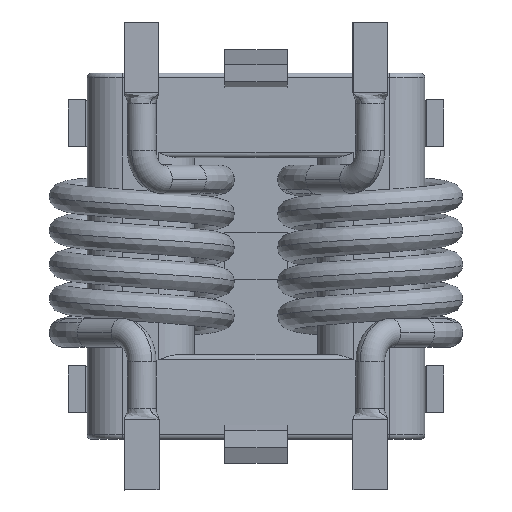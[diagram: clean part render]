
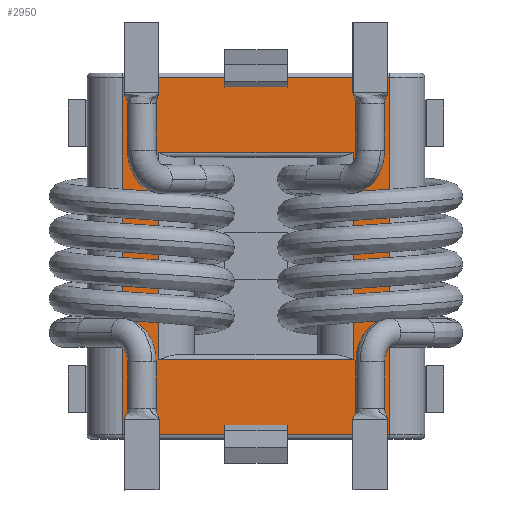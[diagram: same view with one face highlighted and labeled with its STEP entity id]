
A CAD part, top view. The second image highlights one B-rep face of the part: STEP entity #2950.
In plain terms, the highlighted planar face has unit normal (0, 0, 1).
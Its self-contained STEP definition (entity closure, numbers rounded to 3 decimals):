
#4 = EDGE_CURVE ( 'NONE', #8555, #11320, #2230, .T. ) ;
#168 = VECTOR ( 'NONE', #2508, 1000. ) ;
#873 = VERTEX_POINT ( 'NONE', #5338 ) ;
#1030 = CARTESIAN_POINT ( 'NONE',  ( 21.226, 8.313, 3.45 ) ) ;
#1208 = CARTESIAN_POINT ( 'NONE',  ( 15.026, -4.887, 3.45 ) ) ;
#1559 = EDGE_CURVE ( 'NONE', #11576, #3186, #13070, .T. ) ;
#2230 = LINE ( 'NONE', #11026, #2727 ) ;
#2508 = DIRECTION ( 'NONE',  ( -1., 0., 0. ) ) ;
#2661 = VECTOR ( 'NONE', #4135, 1000. ) ;
#2727 = VECTOR ( 'NONE', #8040, 1000. ) ;
#2950 = ADVANCED_FACE ( 'NONE', ( #3803, #9127 ), #10917, .T. ) ;
#3079 = LINE ( 'NONE', #6645, #5367 ) ;
#3186 = VERTEX_POINT ( 'NONE', #7169 ) ;
#3277 = EDGE_CURVE ( 'NONE', #10078, #873, #5741, .T. ) ;
#3479 = DIRECTION ( 'NONE',  ( 0., -1., 0. ) ) ;
#3767 = CARTESIAN_POINT ( 'NONE',  ( 23.576, -9.687, 3.45 ) ) ;
#3803 = FACE_OUTER_BOUND ( 'NONE', #9327, .T. ) ;
#4100 = ORIENTED_EDGE ( 'NONE', *, *, #10108, .T. ) ;
#4135 = DIRECTION ( 'NONE',  ( 0., 1., 0. ) ) ;
#4184 = LINE ( 'NONE', #10744, #7922 ) ;
#4843 = ORIENTED_EDGE ( 'NONE', *, *, #1559, .T. ) ;
#5337 = AXIS2_PLACEMENT_3D ( 'NONE', #5600, #12789, #10964 ) ;
#5338 = CARTESIAN_POINT ( 'NONE',  ( 8.826, 8.313, 3.45 ) ) ;
#5367 = VECTOR ( 'NONE', #8791, 1000. ) ;
#5391 = DIRECTION ( 'NONE',  ( -1., 0., 0. ) ) ;
#5600 = CARTESIAN_POINT ( 'NONE',  ( 15.026, 1.713, 3.45 ) ) ;
#5741 = LINE ( 'NONE', #11255, #2661 ) ;
#5893 = VECTOR ( 'NONE', #7563, 1000. ) ;
#6078 = CARTESIAN_POINT ( 'NONE',  ( 23.576, 13.113, 3.45 ) ) ;
#6307 = CARTESIAN_POINT ( 'NONE',  ( 8.826, -4.887, 3.45 ) ) ;
#6324 = CARTESIAN_POINT ( 'NONE',  ( 6.476, -9.687, 3.45 ) ) ;
#6455 = ORIENTED_EDGE ( 'NONE', *, *, #3277, .T. ) ;
#6526 = LINE ( 'NONE', #9588, #5893 ) ;
#6645 = CARTESIAN_POINT ( 'NONE',  ( 15.026, 8.313, 3.45 ) ) ;
#6832 = VECTOR ( 'NONE', #5391, 1000. ) ;
#7169 = CARTESIAN_POINT ( 'NONE',  ( 6.476, 13.113, 3.45 ) ) ;
#7268 = CARTESIAN_POINT ( 'NONE',  ( 21.226, -4.887, 3.45 ) ) ;
#7343 = VECTOR ( 'NONE', #10897, 1000. ) ;
#7563 = DIRECTION ( 'NONE',  ( 0., 1., 0. ) ) ;
#7922 = VECTOR ( 'NONE', #3479, 1000. ) ;
#8040 = DIRECTION ( 'NONE',  ( 0., -1., 0. ) ) ;
#8106 = LINE ( 'NONE', #1208, #6832 ) ;
#8555 = VERTEX_POINT ( 'NONE', #1030 ) ;
#8570 = EDGE_LOOP ( 'NONE', ( #8891, #4100, #6455, #10125 ) ) ;
#8661 = VERTEX_POINT ( 'NONE', #10264 ) ;
#8791 = DIRECTION ( 'NONE',  ( 1., 0., 0. ) ) ;
#8886 = EDGE_CURVE ( 'NONE', #12250, #8661, #9098, .T. ) ;
#8891 = ORIENTED_EDGE ( 'NONE', *, *, #4, .T. ) ;
#9098 = LINE ( 'NONE', #3767, #7343 ) ;
#9127 = FACE_BOUND ( 'NONE', #8570, .T. ) ;
#9327 = EDGE_LOOP ( 'NONE', ( #12548, #4843, #12083, #9683 ) ) ;
#9588 = CARTESIAN_POINT ( 'NONE',  ( 23.576, 13.413, 3.45 ) ) ;
#9683 = ORIENTED_EDGE ( 'NONE', *, *, #8886, .T. ) ;
#9888 = EDGE_CURVE ( 'NONE', #873, #8555, #3079, .T. ) ;
#10078 = VERTEX_POINT ( 'NONE', #6307 ) ;
#10108 = EDGE_CURVE ( 'NONE', #11320, #10078, #8106, .T. ) ;
#10125 = ORIENTED_EDGE ( 'NONE', *, *, #9888, .T. ) ;
#10264 = CARTESIAN_POINT ( 'NONE',  ( 23.576, -9.687, 3.45 ) ) ;
#10744 = CARTESIAN_POINT ( 'NONE',  ( 6.476, -9.987, 3.45 ) ) ;
#10880 = CARTESIAN_POINT ( 'NONE',  ( 6.476, 13.113, 3.45 ) ) ;
#10897 = DIRECTION ( 'NONE',  ( 1., 0., 0. ) ) ;
#10917 = PLANE ( 'NONE',  #5337 ) ;
#10964 = DIRECTION ( 'NONE',  ( 1., 0., 0. ) ) ;
#11026 = CARTESIAN_POINT ( 'NONE',  ( 21.226, 1.713, 3.45 ) ) ;
#11161 = EDGE_CURVE ( 'NONE', #3186, #12250, #4184, .T. ) ;
#11255 = CARTESIAN_POINT ( 'NONE',  ( 8.826, 1.713, 3.45 ) ) ;
#11320 = VERTEX_POINT ( 'NONE', #7268 ) ;
#11576 = VERTEX_POINT ( 'NONE', #6078 ) ;
#12083 = ORIENTED_EDGE ( 'NONE', *, *, #11161, .T. ) ;
#12250 = VERTEX_POINT ( 'NONE', #6324 ) ;
#12548 = ORIENTED_EDGE ( 'NONE', *, *, #13324, .T. ) ;
#12789 = DIRECTION ( 'NONE',  ( 0., 0., 1. ) ) ;
#13070 = LINE ( 'NONE', #10880, #168 ) ;
#13324 = EDGE_CURVE ( 'NONE', #8661, #11576, #6526, .T. ) ;
